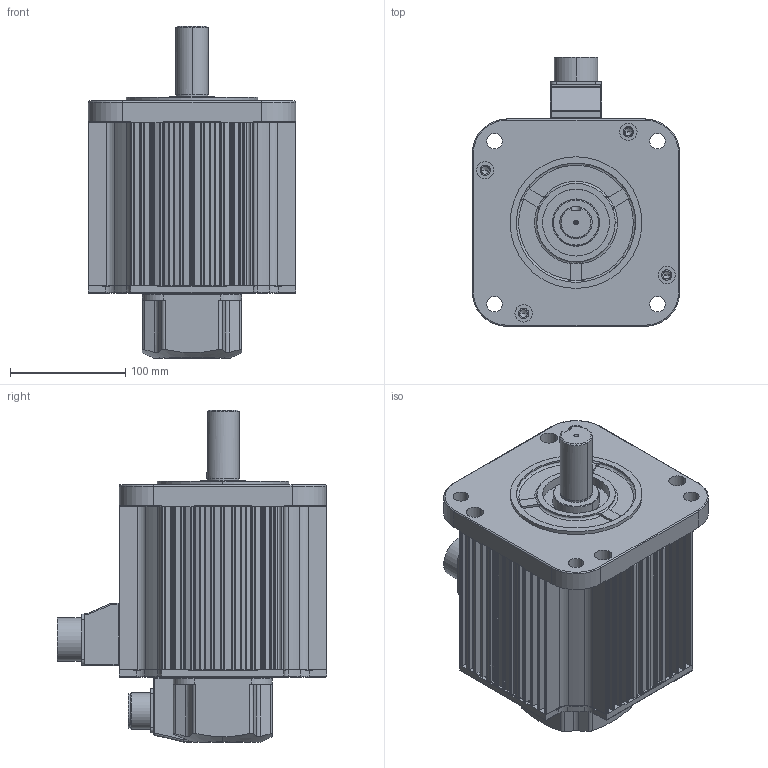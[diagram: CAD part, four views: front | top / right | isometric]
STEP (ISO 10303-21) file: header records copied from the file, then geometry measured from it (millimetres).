
FILE_DESCRIPTION (( 'STEP AP214' ), '1' );
FILE_NAME ('KAND-35B¡à1B2.STEP', '2026-09-12T02:52:48', ( '' ), ( '' ), 'SwSTEP 2.0', 'SolidWorks 2023', '' );
FILE_SCHEMA (( 'AUTOMOTIVE_DESIGN' ));
Length unit declared in the file: millimetre
Products named in the file (11): 10050907 RUBBER SEAL_MS22 or MS24; MS3102A 24_표준; □180-141.5mm; □180 BRACKET_BR; 10050908 CONNECTOR BOX_MS22 or MS24; 10050523 GASKET_돌출형; 1005052200 ENCODER COVER; Ø28-KEY8X51; KAND-35B□1B2; MS3102A 20-29P; □180 FLANGE
Assembly tree (10 placements, depth 2):
  KAND-35B□1B2
    □180-141.5mm
    □180 FLANGE
    □180 BRACKET_BR
    1005052200 ENCODER COVER
    10050523 GASKET_돌출형
    10050907 RUBBER SEAL_MS22 or MS24
    10050908 CONNECTOR BOX_MS22 or MS24
    MS3102A 20-29P
    MS3102A 24_표준
    Ø28-KEY8X51
Bounding box: 180 x 233.62 x 288.2 mm (x, y, z)
Volume: 1493419.9 mm3; surface area: 526573 mm2
Topology: 10 solids, 10 shells, 1746 faces, 4794 edges, 3122 vertices
Faces by surface type: cylinder 912, plane 605, torus 122, cone 70, bspline 35, sphere 2
Entity records: 59069 total; most frequent: CARTESIAN_POINT 13286, DIRECTION 9926, ORIENTED_EDGE 9516, EDGE_CURVE 4758, AXIS2_PLACEMENT_3D 3818, VERTEX_POINT 3122, LINE 2290, VECTOR 2290
